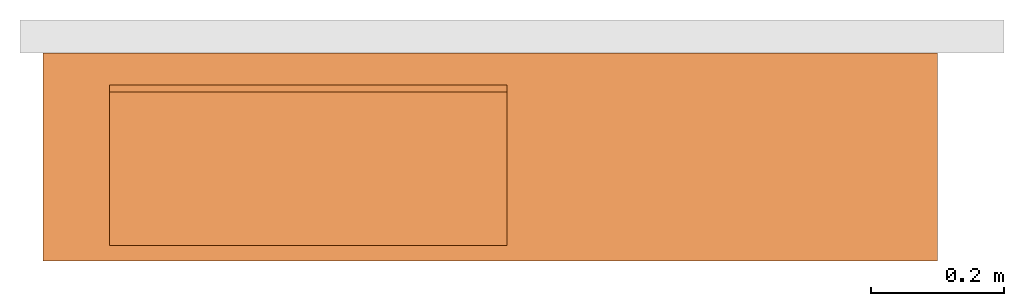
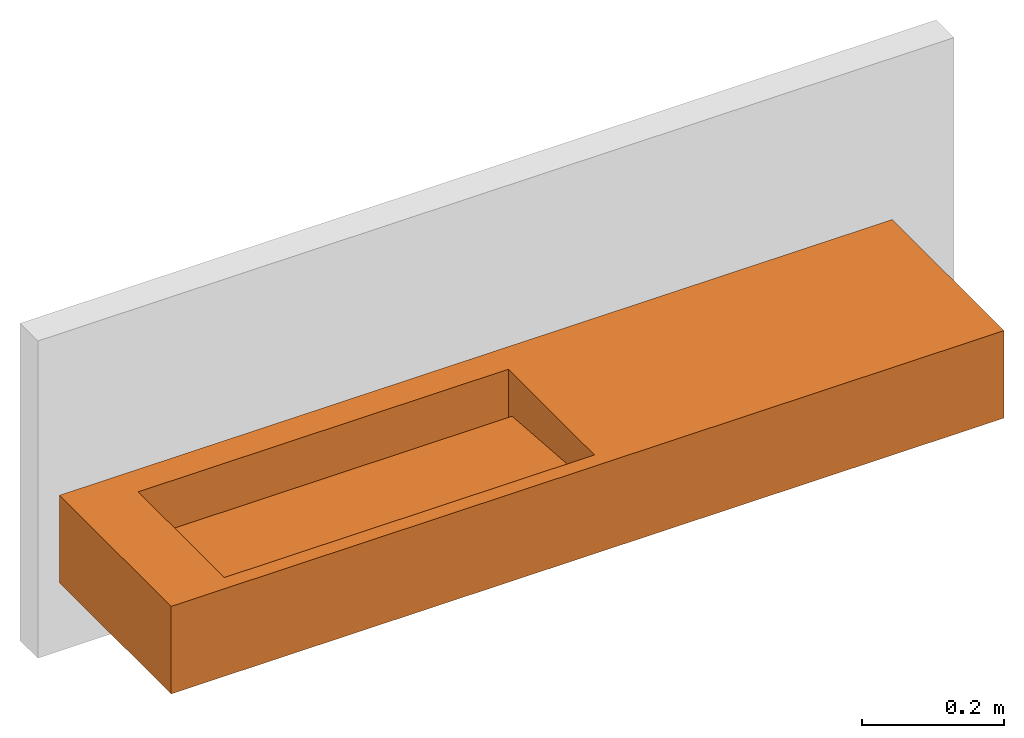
# One storey, part 2 of 2: 1 proxy.
"""IFC2X3 building model written with IfcOpenShell, lengths in millimetres."""

import ifcopenshell
import ifcopenshell.guid

model = None  # the IFC model being written
_history = None  # IfcOwnerHistory: only IFC2X3 demands one
_inside = {}  # id of a spatial element -> (the spatial element, [elements in it])
_under = {}  # id of a project, library or spatial element -> (it, [spatial elements below it])
_declared = {}  # id of a project -> (the project, [libraries it declares])
_typed = {}  # id of a type object -> (the type object, [elements of that type])
_made_of = {}  # id of a material, layer set ... -> (it, [elements and type objects made of it])


def new_model(schema):
    """Start an empty IFC model of exactly this schema.

    Asked for "IFC4X3", IfcOpenShell would pick the latest addendum, in which some entities
    have other attributes; the version numbers below select the first issue.
    IFC2X3 requires an IfcOwnerHistory on every rooted entity: one is made here for all.
    """
    global model, _history
    if schema == "IFC4X3":
        model = ifcopenshell.file(schema_version=(4, 3, 0, 0))
    else:
        model = ifcopenshell.file(schema=schema)
    _inside.clear()
    _under.clear()
    _declared.clear()
    _typed.clear()
    _made_of.clear()
    _history = None
    if model.schema == "IFC2X3":
        org = make("IfcOrganization", Name="unknown")
        user = make(
            "IfcPersonAndOrganization",
            ThePerson=make("IfcPerson", FamilyName="unknown"),
            TheOrganization=org,
        )
        app = make(
            "IfcApplication",
            ApplicationDeveloper=org,
            Version="unknown",
            ApplicationFullName="unknown",
            ApplicationIdentifier="unknown",
        )
        _history = make(
            "IfcOwnerHistory",
            OwningUser=user,
            OwningApplication=app,
            ChangeAction="ADDED",
            CreationDate=0,
        )
    return model


def make(cls, **values):
    """One entity of the class cls with the attributes given. An attribute that is None is left unset."""
    return model.create_entity(
        cls, **{name: value for name, value in values.items() if value is not None}
    )


def entity(cls, *values):
    """Any entity or typed value of the class cls, its attributes in the order of the schema. None: left unset."""
    e = model.create_entity(cls)
    for i, value in enumerate(values):
        if value is not None:
            e[i] = value
    return e


def rooted(cls, **values):
    """An entity with a GlobalId (a new one), such as an element, a storey or a relation."""
    return make(cls, GlobalId=ifcopenshell.guid.new(), OwnerHistory=_history, **values)


def si_unit(unit_type, name, prefix=None):
    """IfcSIUnit, for example si_unit("LENGTHUNIT", "METRE", prefix="MILLI")."""
    return make("IfcSIUnit", UnitType=unit_type, Prefix=prefix, Name=name)


def converted_unit(unit_type, name, factor, base, dimensions=None, offset=None):
    """IfcConversionBasedUnit, such as the inch: factor (a typed value) times the base unit."""
    return make(
        "IfcConversionBasedUnit"
        if offset is None
        else "IfcConversionBasedUnitWithOffset",
        ConversionOffset=offset,
        Dimensions=None
        if dimensions is None
        else entity("IfcDimensionalExponents", *dimensions),
        UnitType=unit_type,
        Name=name,
        ConversionFactor=make(
            "IfcMeasureWithUnit", ValueComponent=factor, UnitComponent=base
        ),
    )


def derived_unit(unit_type, elements):
    """IfcDerivedUnit: a product of units, each with its exponent."""
    return make(
        "IfcDerivedUnit",
        Elements=[
            make("IfcDerivedUnitElement", Unit=unit, Exponent=power)
            for unit, power in elements
        ],
        UnitType=unit_type,
    )


def assignment(units):
    """IfcUnitAssignment: the units of a project."""
    return None if units is None else make("IfcUnitAssignment", Units=units)


def point(xyz):
    """IfcCartesianPoint."""
    return None if xyz is None else make("IfcCartesianPoint", Coordinates=xyz)


def direction(xyz):
    """IfcDirection."""
    return None if xyz is None else make("IfcDirection", DirectionRatios=xyz)


def frame(location, z_axis=None, x_axis=None):
    """IfcAxis2Placement3D, a coordinate frame: its origin and axes. An axis left out is left unset."""
    return make(
        "IfcAxis2Placement3D",
        Location=point(location),
        Axis=direction(z_axis),
        RefDirection=direction(x_axis),
    )


def origin():
    """The frame at (0, 0, 0) with its axes left unset."""
    return frame((0.0, 0.0, 0.0))


def place(relative_to, where):
    """IfcLocalPlacement: puts the frame where relative to a parent placement (None: the world)."""
    return make(
        "IfcLocalPlacement", PlacementRelTo=relative_to, RelativePlacement=where
    )


def context(
    kind, dimensions, precision=None, world=None, true_north=None, identifier=None
):
    """IfcGeometricRepresentationContext, for example the 3D "Model" context."""
    return make(
        "IfcGeometricRepresentationContext",
        ContextIdentifier=identifier,
        ContextType=kind,
        CoordinateSpaceDimension=dimensions,
        Precision=precision,
        WorldCoordinateSystem=world,
        TrueNorth=true_north,
    )


def subcontext(parent, identifier, kind, view, scale=None):
    """IfcGeometricRepresentationSubContext, for example "Body" below "Model"."""
    return make(
        "IfcGeometricRepresentationSubContext",
        ContextIdentifier=identifier,
        ContextType=kind,
        ParentContext=parent,
        TargetScale=scale,
        TargetView=view,
    )


def project(units=None, contexts=None):
    """IfcProject with its units and contexts."""
    return rooted(
        "IfcProject",
        Name="project",
        RepresentationContexts=contexts,
        UnitsInContext=assignment(units),
    )


def spatial(cls, under=None, at=None, **own):
    """A site, building, storey or space (cls), placed at a placement, below another one or the project."""
    s = rooted(cls, ObjectPlacement=at, **own)
    if under is not None:
        _under.setdefault(under.id(), (under, []))[1].append(s)
    return s


def faces_of(points, faces, orient=None, outer=None):
    """IfcFace entities. A face is a list of loops; a loop is a list of indices into points, from 0.

    orient and outer hold one flag for each loop. By default every Orientation is true, the
    first loop of a face is its IfcFaceOuterBound and the others are IfcFaceBound.
    """
    made = []
    for i, loops in enumerate(faces):
        bounds = []
        for j, loop in enumerate(loops):
            is_outer = j == 0 if outer is None else outer[i][j]
            bounds.append(
                make(
                    "IfcFaceOuterBound" if is_outer else "IfcFaceBound",
                    Bound=make("IfcPolyLoop", Polygon=[points[k] for k in loop]),
                    Orientation=True if orient is None else orient[i][j],
                )
            )
        made.append(make("IfcFace", Bounds=bounds))
    return made


def faceted_brep(points, faces, orient=None, outer=None, voids=None):
    """IfcFacetedBrep: a solid bounded by flat faces; with voids (closed shells), ...WithVoids."""
    shared = [point(p) for p in points]
    hull = make("IfcClosedShell", CfsFaces=faces_of(shared, faces, orient, outer))
    if voids is None:
        return make("IfcFacetedBrep", Outer=hull)
    return make(
        "IfcFacetedBrepWithVoids",
        Outer=hull,
        Voids=[
            make(cls, CfsFaces=faces_of(shared, fs, o, b)) for cls, fs, o, b in voids
        ],
    )


def shape(context_of_items, identifier, shape_type, items):
    """IfcShapeRepresentation: the items that make up one representation, for example the "Body"."""
    return make(
        "IfcShapeRepresentation",
        ContextOfItems=context_of_items,
        RepresentationIdentifier=identifier,
        RepresentationType=shape_type,
        Items=items,
    )


def source(mapping_origin, context_of_items, identifier, shape_type, items):
    """IfcRepresentationMap: a shape defined once, which mapped items show again and again."""
    return make(
        "IfcRepresentationMap",
        MappingOrigin=mapping_origin,
        MappedRepresentation=shape(context_of_items, identifier, shape_type, items),
    )


def transform(
    local_origin,
    x_axis=None,
    y_axis=None,
    z_axis=None,
    scale=None,
    scale2=None,
    scale3=None,
    uniform=True,
):
    """IfcCartesianTransformationOperator3D, or its non-uniform kind. x_axis, y_axis, z_axis: its Axis1, 2, 3."""
    if uniform:
        return make(
            "IfcCartesianTransformationOperator3D",
            Axis1=direction(x_axis),
            Axis2=direction(y_axis),
            LocalOrigin=point(local_origin),
            Scale=scale,
            Axis3=direction(z_axis),
        )
    return make(
        "IfcCartesianTransformationOperator3DnonUniform",
        Axis1=direction(x_axis),
        Axis2=direction(y_axis),
        LocalOrigin=point(local_origin),
        Scale=scale,
        Axis3=direction(z_axis),
        Scale2=scale2,
        Scale3=scale3,
    )


def mapped(mapping_source, mapping_target):
    """IfcMappedItem: shows the shape of a source again, moved by a transform."""
    return make(
        "IfcMappedItem", MappingSource=mapping_source, MappingTarget=mapping_target
    )


def material(Name=None, Category=None):
    """IfcMaterial."""
    return make("IfcMaterial", Name=Name, Category=Category)


def material_list(materials):
    """IfcMaterialList."""
    return make("IfcMaterialList", Materials=materials)


def made_of(thing, what):
    """Note that an element or type object is made of a material, layer set ...; save() writes the relation."""
    if what is not None:
        _made_of.setdefault(what.id(), (what, []))[1].append(thing)
    return thing


def element(
    cls,
    number,
    at=None,
    inside=None,
    cuts=None,
    type_object=None,
    material=None,
    context=None,
    identifier="Body",
    shape_type=None,
    held_by="IfcProductDefinitionShape",
    body=None,
    shapes=None,
    **own,
):
    """One element of the class cls, such as IfcWall. Its Tag is "e" and its number.

    at: its placement. inside: the storey or other place that contains it. cuts: it is an
    opening in that element (IfcRelVoidsElement). A single representation is given by context,
    identifier, shape_type and body (its items); several are given by shapes. held_by: the class
    of the entity that holds the representations. save() writes the other relations.
    """
    e = rooted(cls, Tag="e%d" % number, ObjectPlacement=at, **own)
    if body is not None:
        shapes = [shape(context, identifier, shape_type, body)]
    if shapes is not None:
        e.Representation = make(held_by, Representations=shapes)
    if inside is not None:
        _inside.setdefault(inside.id(), (inside, []))[1].append(e)
    if cuts is not None:
        rooted(
            "IfcRelVoidsElement", RelatingBuildingElement=cuts, RelatedOpeningElement=e
        )
    if type_object is not None:
        _typed.setdefault(type_object.id(), (type_object, []))[1].append(e)
    return made_of(e, material)


def aggregate(whole, parts):
    """IfcRelAggregates: a whole, such as a stair, and the parts it consists of."""
    return rooted("IfcRelAggregates", RelatingObject=whole, RelatedObjects=parts)


def save(model, path):
    """Write the relations noted so far, then the file.

    IfcRelAggregates (storeys below a building ...), IfcRelContainedInSpatialStructure (elements
    in a storey), IfcRelDefinesByType, IfcRelAssociatesMaterial and IfcRelDeclares: one each for
    every whole, place, type object, material and project.
    """
    for whole, parts in _under.values():
        aggregate(whole, parts)
    for where, things in _inside.values():
        rooted(
            "IfcRelContainedInSpatialStructure",
            RelatedElements=things,
            RelatingStructure=where,
        )
    for kind, things in _typed.values():
        rooted("IfcRelDefinesByType", RelatedObjects=things, RelatingType=kind)
    for what, things in _made_of.values():
        rooted("IfcRelAssociatesMaterial", RelatedObjects=things, RelatingMaterial=what)
    for by, libraries in _declared.values():
        rooted("IfcRelDeclares", RelatingContext=by, RelatedDefinitions=libraries)
    model.write(path)


model = new_model("IFC2X3")

# Units and contexts
model_context = context("Model", 3, precision=1e-05, world=origin(), true_north=direction((2.0, 6.12303176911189e-17, 1.0)))
context_of_model = context(None, 3, precision=1e-05, world=origin(), true_north=direction((2.0, 6.12303176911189e-17, 1.0)))
body_context = subcontext(model_context, "Body", "Model", "MODEL_VIEW")
ifc_project = project(units=[si_unit("LENGTHUNIT", "METRE", prefix="MILLI"), si_unit("AREAUNIT", "SQUARE_METRE"), si_unit("VOLUMEUNIT", "CUBIC_METRE"), converted_unit("PLANEANGLEUNIT", "DEGREE", entity("IfcRatioMeasure", 0.0174532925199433), si_unit("PLANEANGLEUNIT", "RADIAN"), dimensions=[0, 0, 0, 0, 0, 0, 0]), si_unit("MASSUNIT", "GRAM", prefix="KILO"), si_unit("TIMEUNIT", "SECOND"), si_unit("THERMODYNAMICTEMPERATUREUNIT", "KELVIN"), derived_unit("THERMALTRANSMITTANCEUNIT", [(si_unit("MASSUNIT", "GRAM", prefix="KILO"), 1), (si_unit("THERMODYNAMICTEMPERATUREUNIT", "KELVIN"), -1), (si_unit("TIMEUNIT", "SECOND"), -3)]), derived_unit("VOLUMETRICFLOWRATEUNIT", [(si_unit("LENGTHUNIT", "METRE"), 3), (si_unit("TIMEUNIT", "SECOND"), -1)]), si_unit("POWERUNIT", "WATT")], contexts=[model_context, context_of_model])

# Site, building, storey
site_placement = place(None, origin())
site = spatial("IfcSite", under=ifc_project, at=site_placement, Name="Default", CompositionType="ELEMENT")
building_placement = place(site_placement, origin())
building = spatial("IfcBuilding", under=site, at=building_placement, CompositionType="ELEMENT")
storey_placement = place(building_placement, origin())
storey = spatial("IfcBuildingStorey", under=building, at=storey_placement, Name="Level 1", CompositionType="ELEMENT", Elevation=0.0)

# Proxy
ifc_material_1 = material(Name="Drain")
ifc_material_2 = material(Name="Corian")
ifc_material_list = material_list([ifc_material_1, ifc_material_2])
shared_shape = source(origin(), body_context, "Body", "Brep", [
    faceted_brep([(400.0, 191.249999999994, 0.0), (378.601228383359, 198.20288237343, 0.0), (382.688030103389, 203.82788237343, 0.0), (386.774831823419, 209.45288237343, 0.0), (392.690845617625, 211.375111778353, 0.0), (400.0, 213.749999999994, 0.0), (406.61258408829, 211.601441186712, 0.0), (378.601228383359, 191.249999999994, 0.0), (378.601228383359, 184.297117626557, 0.0), (382.688030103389, 178.672117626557, 0.0), (386.774831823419, 173.047117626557, 0.0), (393.387415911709, 170.898558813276, 0.0), (400.0, 168.749999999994, 0.0), (413.22516817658, 209.45288237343, 0.0), (417.311969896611, 203.82788237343, 0.0), (421.398771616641, 198.20288237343, 0.0), (421.398771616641, 191.249999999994, 0.0), (407.309154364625, 171.124888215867, 0.0), (413.225168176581, 173.047117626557, 0.0), (417.311969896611, 178.672117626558, 0.0), (421.398771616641, 184.297117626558, 0.0), (400.0, 191.249999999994, 78.0), (386.774831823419, 209.45288237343, 78.0), (382.688030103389, 203.82788237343, 78.0), (378.601228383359, 198.20288237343, 78.0), (378.601228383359, 191.249999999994, 78.0), (393.387415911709, 211.601441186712, 78.0), (400.0, 213.749999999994, 78.0), (378.601228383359, 184.297117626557, 78.0), (382.688030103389, 178.672117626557, 78.0), (386.774831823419, 173.047117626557, 78.0), (393.387415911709, 170.898558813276, 78.0), (400.0, 168.749999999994, 78.0), (406.61258408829, 170.898558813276, 78.0), (406.61258408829, 211.601441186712, 78.0), (413.22516817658, 209.45288237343, 78.0), (417.31196989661, 203.82788237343, 78.0), (421.398771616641, 198.20288237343, 78.0), (413.225168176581, 173.047117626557, 78.0), (417.311969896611, 178.672117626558, 78.0), (421.398771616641, 184.297117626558, 78.0), (421.398771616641, 191.249999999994, 78.0), (400.0, 213.749999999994, 50.0), (394.567378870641, 211.984834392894, 50.0), (390.67110534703, 210.718858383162, 50.0), (386.774831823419, 209.45288237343, 50.0), (386.774831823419, 209.45288237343, 41.622705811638), (393.387415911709, 211.601441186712, 41.622705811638), (400.0, 213.749999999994, 41.622705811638), (378.601228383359, 198.20288237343, 50.0), (382.688030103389, 203.82788237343, 50.0), (378.601228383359, 198.20288237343, 41.622705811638), (382.688030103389, 203.82788237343, 41.622705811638), (378.601228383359, 184.297117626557, 50.0), (382.688030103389, 178.672117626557, 50.0), (386.774831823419, 173.047117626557, 50.0), (386.774831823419, 173.047117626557, 41.622705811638), (382.688030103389, 178.672117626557, 41.622705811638), (378.601228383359, 184.297117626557, 41.622705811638), (394.56737887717, 170.515165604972, 50.0), (400.0, 168.749999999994, 50.0), (390.671105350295, 171.781141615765, 50.0), (400.0, 168.749999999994, 41.622705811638), (393.387415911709, 170.898558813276, 41.622705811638), (378.601228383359, 191.249999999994, 50.0), (378.601228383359, 191.249999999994, 41.622705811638), (405.432621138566, 170.515165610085, 50.0), (409.328894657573, 171.781141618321, 50.0), (413.225168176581, 173.047117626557, 50.0), (406.61258408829, 170.898558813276, 41.622705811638), (413.225168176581, 173.047117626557, 41.622705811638), (421.398771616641, 184.297117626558, 50.0), (417.311969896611, 178.672117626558, 50.0), (421.398771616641, 184.297117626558, 41.622705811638), (417.311969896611, 178.672117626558, 41.622705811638), (421.398771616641, 198.20288237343, 50.0), (417.31196989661, 203.82788237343, 50.0), (413.22516817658, 209.45288237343, 50.0), (413.22516817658, 209.45288237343, 41.622705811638), (417.31196989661, 203.82788237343, 41.622705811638), (421.398771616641, 198.20288237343, 41.622705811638), (405.432621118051, 211.984834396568, 50.0), (409.328894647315, 210.718858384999, 50.0), (406.61258408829, 211.601441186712, 41.622705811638), (421.398771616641, 191.249999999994, 50.0), (421.398771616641, 191.249999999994, 41.622705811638), (400.0, 223.693508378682, 50.0), (394.064971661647, 222.103222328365, 50.0), (383.778245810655, 219.346902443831, 50.0), (408.110877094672, 221.520205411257, 50.0), (416.221754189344, 219.346902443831, 50.0), (422.159328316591, 213.409328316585, 50.0), (428.096902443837, 207.471754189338, 50.0), (430.270205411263, 199.360877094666, 50.0), (432.443508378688, 191.249999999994, 50.0), (430.270205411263, 183.139122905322, 50.0), (428.096902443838, 175.02824581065, 50.0), (422.159328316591, 169.090671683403, 50.0), (416.221754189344, 163.153097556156, 50.0), (405.935028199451, 160.396777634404, 50.0), (400.0, 158.806491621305, 50.0), (391.889122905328, 160.979794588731, 50.0), (383.778245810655, 163.153097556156, 50.0), (377.840671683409, 169.090671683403, 50.0), (371.903097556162, 175.028245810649, 50.0), (369.729794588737, 183.139122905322, 50.0), (367.556491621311, 191.249999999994, 50.0), (369.729794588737, 199.360877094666, 50.0), (371.903097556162, 207.471754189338, 50.0), (377.840671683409, 213.409328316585, 50.0), (383.778245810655, 163.153097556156, 41.622705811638), (391.889122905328, 160.979794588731, 41.622705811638), (400.0, 158.806491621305, 41.622705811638), (367.556491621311, 191.249999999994, 41.622705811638), (369.729794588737, 183.139122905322, 41.622705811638), (371.903097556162, 175.028245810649, 41.622705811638), (377.840671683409, 169.090671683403, 41.622705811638), (400.0, 223.693508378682, 41.622705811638), (391.889122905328, 221.520205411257, 41.622705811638), (383.778245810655, 219.346902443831, 41.622705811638), (377.840671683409, 213.409328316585, 41.622705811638), (371.903097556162, 207.471754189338, 41.622705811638), (369.729794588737, 199.360877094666, 41.622705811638), (416.221754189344, 219.346902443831, 41.622705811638), (408.110877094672, 221.520205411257, 41.622705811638), (432.443508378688, 191.249999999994, 41.622705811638), (430.270205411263, 199.360877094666, 41.622705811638), (428.096902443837, 207.471754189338, 41.622705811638), (422.159328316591, 213.409328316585, 41.622705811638), (408.110877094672, 160.979794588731, 41.622705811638), (416.221754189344, 163.153097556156, 41.622705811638), (422.159328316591, 169.090671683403, 41.622705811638), (428.096902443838, 175.02824581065, 41.622705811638), (430.270205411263, 183.139122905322, 41.622705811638)], [[[0, 1, 2]], [[0, 2, 3]], [[0, 3, 4]], [[0, 4, 5]], [[0, 5, 6]], [[0, 7, 1]], [[0, 8, 7]], [[0, 9, 8]], [[0, 10, 9]], [[0, 11, 10]], [[0, 12, 11]], [[0, 6, 13]], [[0, 13, 14]], [[0, 14, 15]], [[0, 15, 16]], [[0, 17, 12]], [[0, 18, 17]], [[0, 19, 18]], [[0, 20, 19]], [[0, 16, 20]], [[21, 22, 23]], [[21, 23, 24]], [[21, 24, 25]], [[21, 26, 22]], [[21, 27, 26]], [[21, 25, 28]], [[21, 28, 29]], [[21, 29, 30]], [[21, 30, 31]], [[21, 31, 32]], [[21, 32, 33]], [[21, 34, 27]], [[21, 35, 34]], [[21, 36, 35]], [[21, 37, 36]], [[21, 33, 38]], [[21, 38, 39]], [[21, 39, 40]], [[21, 40, 41]], [[21, 41, 37]], [[26, 27, 42, 43, 44, 45, 22]], [[5, 4, 3, 46, 47, 48]], [[49, 24, 23, 22, 45, 50]], [[2, 1, 51, 52, 46, 3]], [[29, 28, 53, 54, 55, 30]], [[56, 57, 58, 8, 9, 10]], [[59, 60, 32, 31, 30, 55, 61]], [[62, 63, 56, 10, 11, 12]], [[24, 49, 64, 53, 28, 25]], [[7, 8, 58, 65, 51, 1]], [[33, 32, 60, 66, 67, 68, 38]], [[69, 62, 12, 17, 18, 70]], [[71, 40, 39, 38, 68, 72]], [[19, 20, 73, 74, 70, 18]], [[36, 37, 75, 76, 77, 35]], [[13, 78, 79, 80, 15, 14]], [[81, 42, 27, 34, 35, 77, 82]], [[78, 13, 6, 5, 48, 83]], [[40, 71, 84, 75, 37, 41]], [[15, 80, 85, 73, 20, 16]], [[42, 86, 87]], [[42, 87, 88]], [[88, 43, 42]], [[42, 89, 86]], [[42, 90, 89]], [[90, 42, 81]], [[90, 81, 82]], [[90, 82, 77]], [[77, 91, 90]], [[77, 92, 91]], [[92, 77, 76]], [[92, 76, 75]], [[75, 93, 92]], [[75, 94, 93]], [[94, 75, 84]], [[94, 84, 71]], [[71, 95, 94]], [[71, 96, 95]], [[96, 71, 72]], [[96, 72, 68]], [[68, 97, 96]], [[68, 98, 97]], [[98, 68, 67]], [[98, 67, 66]], [[98, 66, 60]], [[60, 99, 98]], [[60, 100, 99]], [[60, 101, 100]], [[60, 102, 101]], [[102, 60, 59]], [[102, 59, 61]], [[102, 61, 55]], [[55, 103, 102]], [[55, 104, 103]], [[104, 55, 54]], [[104, 54, 53]], [[53, 105, 104]], [[53, 106, 105]], [[106, 53, 64]], [[106, 64, 49]], [[49, 107, 106]], [[49, 108, 107]], [[108, 49, 50]], [[108, 50, 45]], [[88, 45, 44]], [[45, 88, 109]], [[45, 109, 108]], [[88, 44, 43]], [[101, 102, 110, 111, 112, 100]], [[105, 106, 113, 114, 115, 104]], [[115, 116, 110, 102, 103, 104]], [[87, 86, 117, 118, 119, 88]], [[108, 109, 88, 119, 120, 121]], [[121, 122, 113, 106, 107, 108]], [[89, 90, 123, 124, 117, 86]], [[93, 94, 125, 126, 127, 92]], [[127, 128, 123, 90, 91, 92]], [[99, 100, 112, 129, 130, 98]], [[96, 97, 98, 130, 131, 132]], [[132, 133, 125, 94, 95, 96]], [[48, 119, 118]], [[119, 48, 47]], [[48, 118, 117]], [[48, 117, 124]], [[48, 124, 123]], [[123, 83, 48]], [[119, 47, 46]], [[46, 120, 119]], [[46, 121, 120]], [[121, 46, 52]], [[121, 52, 51]], [[51, 122, 121]], [[51, 113, 122]], [[113, 51, 65]], [[113, 65, 58]], [[58, 114, 113]], [[58, 115, 114]], [[115, 58, 57]], [[115, 57, 56]], [[56, 116, 115]], [[56, 110, 116]], [[110, 56, 63]], [[110, 63, 62]], [[62, 111, 110]], [[62, 112, 111]], [[62, 129, 112]], [[62, 130, 129]], [[130, 62, 69]], [[130, 69, 70]], [[70, 131, 130]], [[70, 132, 131]], [[132, 70, 74]], [[132, 74, 73]], [[73, 133, 132]], [[73, 125, 133]], [[125, 73, 85]], [[125, 85, 80]], [[80, 126, 125]], [[80, 127, 126]], [[127, 80, 79]], [[127, 79, 78]], [[78, 123, 128]], [[123, 78, 83]], [[78, 128, 127]]]),
    faceted_brep([(1350.0, 0.0, 228.0), (1350.0, 0.0, 78.0), (1350.0, 314.0, 78.0), (1350.0, 314.0, 228.0), (0.0, 0.0, 228.0), (0.0, 314.0, 228.0), (0.0, 314.0, 78.0), (0.0, 0.0, 78.0), (1350.0, 0.0, 78.0), (1350.0, 0.0, 228.0), (0.0, 0.0, 228.0), (0.0, 0.0, 78.0), (1350.0, 314.0, 78.0), (1350.0, 0.0, 78.0), (0.0, 0.0, 78.0), (0.0, 314.0, 78.0), (1350.0, 314.0, 228.0), (1350.0, 314.0, 78.0), (0.0, 314.0, 78.0), (0.0, 314.0, 228.0), (1350.0, 0.0, 228.0), (1350.0, 314.0, 228.0), (0.0, 314.0, 228.0), (0.0, 0.0, 228.0), (700.0, 265.999986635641, 228.0), (700.0, 24.0, 228.0), (100.0, 24.0, 228.0), (100.0, 265.999986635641, 228.0), (700.0, 105.0, 153.570760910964), (700.0, 254.294531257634, 142.105619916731), (700.0, 255.213371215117, 154.070390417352), (700.0, 24.0, 171.826525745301), (700.0, 24.0, 228.0), (700.0, 265.999986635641, 228.0), (700.0, 265.999986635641, 140.0), (700.0, 239.574999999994, 140.0), (700.0, 239.574999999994, 116.0), (700.0, 142.924999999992, 116.0), (700.0, 142.924999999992, 140.0), (700.0, 105.0, 140.0), (100.0, 105.0, 153.570760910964), (100.0, 105.0, 140.0), (100.0, 142.924999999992, 140.0), (100.0, 142.924999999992, 116.0), (100.0, 239.574999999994, 116.0), (100.0, 239.574999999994, 140.0), (100.0, 265.999986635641, 140.0), (100.0, 265.999986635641, 228.0), (100.0, 24.0, 228.0), (100.0, 24.0, 171.826525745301), (100.0, 255.213371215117, 154.070390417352), (100.0, 254.294531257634, 142.105619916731), (700.0, 105.0, 153.570760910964), (700.0, 105.0, 140.0), (100.0, 105.0, 140.0), (100.0, 105.0, 153.570760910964), (700.0, 105.0, 140.0), (700.0, 142.924999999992, 140.0), (100.0, 142.924999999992, 140.0), (100.0, 105.0, 140.0), (700.0, 142.924999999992, 140.0), (700.0, 142.924999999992, 116.0), (100.0, 142.924999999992, 116.0), (100.0, 142.924999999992, 140.0), (700.0, 142.924999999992, 116.0), (700.0, 239.574999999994, 116.0), (100.0, 239.574999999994, 116.0), (100.0, 142.924999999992, 116.0), (700.0, 239.574999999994, 116.0), (700.0, 239.574999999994, 140.0), (100.0, 239.574999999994, 140.0), (100.0, 239.574999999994, 116.0), (700.0, 239.574999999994, 140.0), (700.0, 265.999986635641, 140.0), (100.0, 265.999986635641, 140.0), (100.0, 239.574999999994, 140.0), (700.0, 265.999986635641, 140.0), (700.0, 265.999986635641, 228.0), (100.0, 265.999986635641, 228.0), (100.0, 265.999986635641, 140.0), (700.0, 24.0, 228.0), (700.0, 24.0, 171.826525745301), (100.0, 24.0, 171.826525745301), (100.0, 24.0, 228.0), (700.0, 24.0, 171.826525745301), (700.0, 255.213371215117, 154.070390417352), (100.0, 255.213371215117, 154.070390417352), (100.0, 24.0, 171.826525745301), (700.0, 255.213371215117, 154.070390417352), (700.0, 254.294531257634, 142.105619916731), (100.0, 254.294531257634, 142.105619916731), (100.0, 255.213371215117, 154.070390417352), (700.0, 254.294531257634, 142.105619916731), (700.0, 105.0, 153.570760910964), (100.0, 105.0, 153.570760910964), (100.0, 254.294531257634, 142.105619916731)], [[[0, 1, 2, 3]], [[4, 5, 6, 7]], [[8, 9, 10, 11]], [[12, 13, 14, 15]], [[16, 17, 18, 19]], [[20, 21, 22, 23], [24, 25, 26, 27]], [[28, 29, 30, 31, 32, 33, 34, 35, 36, 37, 38, 39]], [[40, 41, 42, 43, 44, 45, 46, 47, 48, 49, 50, 51]], [[52, 53, 54, 55]], [[56, 57, 58, 59]], [[60, 61, 62, 63]], [[64, 65, 66, 67]], [[68, 69, 70, 71]], [[72, 73, 74, 75]], [[76, 77, 78, 79]], [[80, 81, 82, 83]], [[84, 85, 86, 87]], [[88, 89, 90, 91]], [[92, 93, 94, 95]]]),
])
proxy_placement = place(storey_placement, frame((-675.747736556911, 3638.69853342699, 41.8797413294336)))
element("IfcBuildingElementProxy", 1, at=proxy_placement, inside=storey, material=ifc_material_list, Name="LUCID TOP WITH INTEGRATED BASIN:Dolphin ALAVO Lucid Top with Integrated Basin", ObjectType="Dolphin ALAVO Lucid Top with Integrated Basin", CompositionType="ELEMENT", context=body_context, shape_type="MappedRepresentation", body=[
    mapped(shared_shape, transform((0.0, 0.0, 0.0), scale=1.0)),
])

save(model, "model.ifc")
